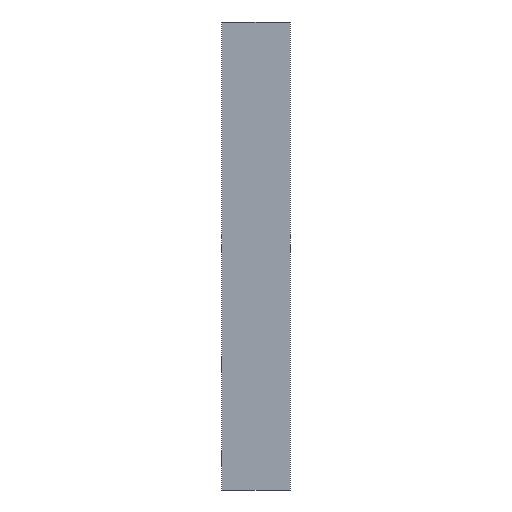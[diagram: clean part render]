
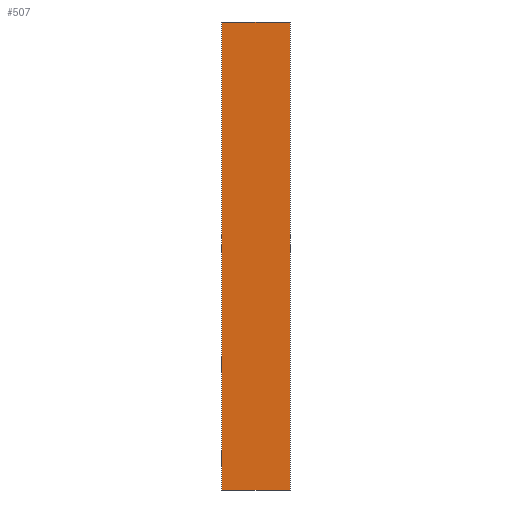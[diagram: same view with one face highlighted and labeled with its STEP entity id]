
A CAD part, left-side view. The second image highlights one B-rep face of the part: STEP entity #507.
In plain terms, the highlighted planar face has unit normal (-1, 0, 0).
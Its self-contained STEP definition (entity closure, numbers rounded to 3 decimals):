
#36 = EDGE_CURVE ( 'NONE', #132, #130, #1007, .T. ) ;
#37 = EDGE_CURVE ( 'NONE', #117, #130, #1009, .T. ) ;
#38 = EDGE_CURVE ( 'NONE', #134, #132, #1013, .T. ) ;
#39 = EDGE_CURVE ( 'NONE', #134, #117, #1016, .T. ) ;
#117 = VERTEX_POINT ( 'NONE', #757 ) ;
#130 = VERTEX_POINT ( 'NONE', #770 ) ;
#132 = VERTEX_POINT ( 'NONE', #772 ) ;
#134 = VERTEX_POINT ( 'NONE', #774 ) ;
#192 = ORIENTED_EDGE ( 'NONE', *, *, #39, .T. ) ;
#214 = ORIENTED_EDGE ( 'NONE', *, *, #36, .F. ) ;
#226 = ORIENTED_EDGE ( 'NONE', *, *, #37, .T. ) ;
#265 = ORIENTED_EDGE ( 'NONE', *, *, #38, .F. ) ;
#370 = EDGE_LOOP ( 'NONE', ( #226, #214, #265, #192 ) ) ;
#507 = ADVANCED_FACE ( 'NONE', ( #1227 ), #1377, .F. ) ;
#617 = AXIS2_PLACEMENT_3D ( 'NONE', #1373, #1378, #1379 ) ;
#757 = CARTESIAN_POINT ( 'NONE',  ( -42.5, 14., 0. ) ) ;
#770 = CARTESIAN_POINT ( 'NONE',  ( -42.5, -14., 0. ) ) ;
#772 = CARTESIAN_POINT ( 'NONE',  ( -42.5, -14., 190. ) ) ;
#774 = CARTESIAN_POINT ( 'NONE',  ( -42.5, 14., 190. ) ) ;
#956 = DIRECTION ( 'NONE',  ( 0., 0., -1. ) ) ;
#958 = CARTESIAN_POINT ( 'NONE',  ( -42.5, 14., 190. ) ) ;
#959 = DIRECTION ( 'NONE',  ( 0., -1., 0. ) ) ;
#960 = DIRECTION ( 'NONE',  ( 0., -1., 0. ) ) ;
#961 = CARTESIAN_POINT ( 'NONE',  ( -42.5, -14., 0. ) ) ;
#962 = DIRECTION ( 'NONE',  ( 0., 0., -1. ) ) ;
#965 = CARTESIAN_POINT ( 'NONE',  ( -42.5, -14., 190. ) ) ;
#973 = CARTESIAN_POINT ( 'NONE',  ( -42.5, -14., 190. ) ) ;
#1007 = LINE ( 'NONE', #965, #1008 ) ;
#1008 = VECTOR ( 'NONE', #962, 1000. ) ;
#1009 = LINE ( 'NONE', #961, #1015 ) ;
#1013 = LINE ( 'NONE', #973, #1017 ) ;
#1015 = VECTOR ( 'NONE', #960, 1000. ) ;
#1016 = LINE ( 'NONE', #958, #1019 ) ;
#1017 = VECTOR ( 'NONE', #959, 1000. ) ;
#1019 = VECTOR ( 'NONE', #956, 1000. ) ;
#1227 = FACE_OUTER_BOUND ( 'NONE', #370, .T. ) ;
#1373 = CARTESIAN_POINT ( 'NONE',  ( -42.5, -14., 190. ) ) ;
#1377 = PLANE ( 'NONE',  #617 ) ;
#1378 = DIRECTION ( 'NONE',  ( 1., 0., 0. ) ) ;
#1379 = DIRECTION ( 'NONE',  ( 0., 0., -1. ) ) ;
